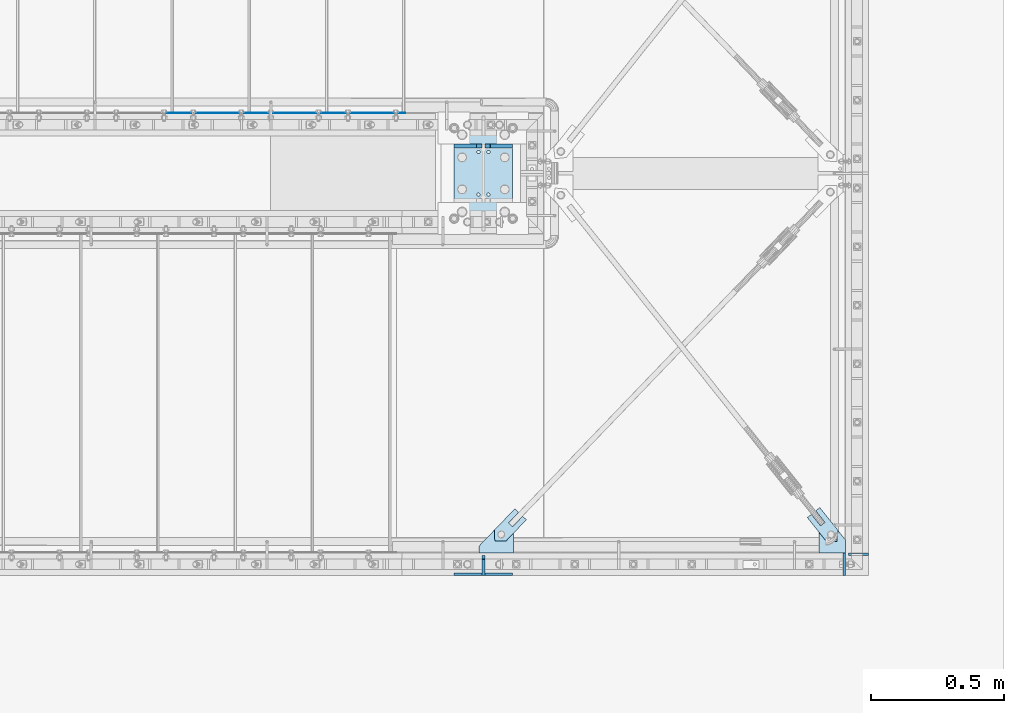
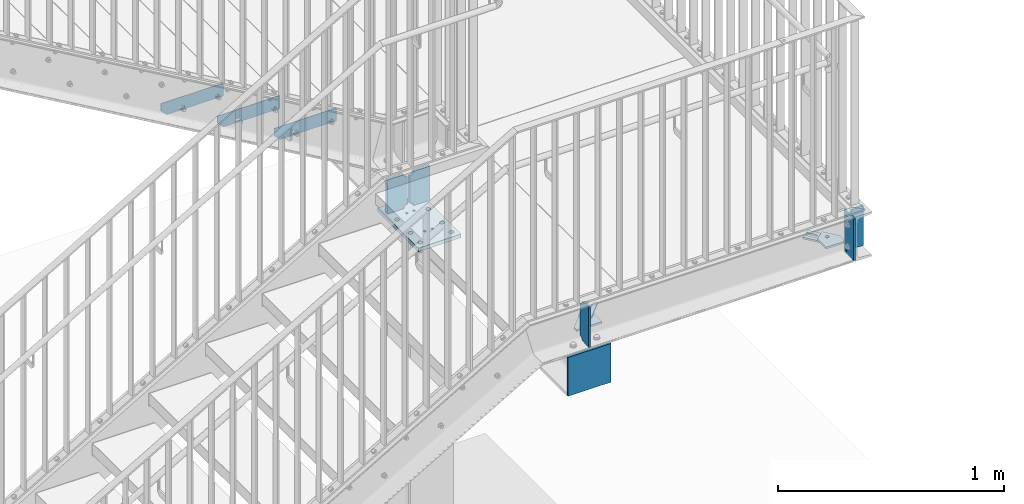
# One storey, part 23 of 145: 14 plates, 41 openings.
"""IFC2X3 building model written with IfcOpenShell, lengths in millimetres."""

from ifc_helpers import new_model, entity, si_unit, converted_unit, point, frame, frame_2d, origin, origin_with_axes, origin_2d_with_axis, place, context, project, spatial, polyline, circle_curve, line_curve, trimmed, segment, composite_curve, circle, outline, extrude, material, layer, layer_set, element, save


model = new_model("IFC2X3")

# Units and contexts
model_context = context("Model", 3, precision=1e-09, world=origin_with_axes())
ifc_project = project(units=[si_unit("LENGTHUNIT", "METRE", prefix="MILLI"), si_unit("AREAUNIT", "SQUARE_METRE"), si_unit("VOLUMEUNIT", "CUBIC_METRE"), converted_unit("PLANEANGLEUNIT", "DEGREE", entity("IfcPlaneAngleMeasure", 0.01745329), si_unit("PLANEANGLEUNIT", "RADIAN"), dimensions=[0, 0, 0, 0, 0, 0, 0])], contexts=[model_context])

# Site, building, storey
site_placement = place(None, origin_with_axes())
site = spatial("IfcSite", under=ifc_project, at=site_placement, Name="BZ1 Grund- und Mittelschule 85716 Unterschlei?heim", CompositionType="ELEMENT")
building_placement = place(site_placement, origin_with_axes())
building = spatial("IfcBuilding", under=site, at=building_placement, Name="Struktur 1", CompositionType="ELEMENT")
storey_placement = place(building_placement, origin_with_axes())
storey = spatial("IfcBuildingStorey", under=building, at=storey_placement, Name="Default Storey", CompositionType="ELEMENT", Elevation=0.0)

# Plate, openings
ifc_material = material(Name="S235JR")
ifc_layer_1 = layer(ifc_material, 20.0)
ifc_layer_set_1 = layer_set([ifc_layer_1], Name="S235JR")
plate_1_placement = place(None, frame((20210.84472732, -1695.002, 1133.636364), z_axis=(0.0, 0.0, 1.0), x_axis=(1.0, 0.0, 0.0)))
plate_1 = element("IfcPlate", 1, at=plate_1_placement, inside=storey, material=ifc_layer_set_1, Name="-", ObjectType="-", context=model_context, shape_type="SweptSolid", body=[
    extrude(outline(polyline([(-110.0, -180.0), (110.0, -180.0), (110.0, 180.0), (-110.0, 180.0), (-110.0, -180.0)])), origin_with_axes(), (0.0, 0.0, 1.0), 20.0),
])
opening_1_placement = place(plate_1_placement, frame((22.75, 76.0, 20.5), z_axis=(0.0, 0.0, -1.0), x_axis=(0.0, 1.0, 0.0)))
element("IfcOpeningElement", 2, at=opening_1_placement, cuts=plate_1, ObjectType="Opening", context=model_context, shape_type="SweptSolid", body=[
    extrude(circle(Radius=6.001, at=frame_2d((4.0, -4.0), x_axis=(1.0, 0.0))), origin(), (0.0, 0.0, 1.0), 21.0),
])
opening_2_placement = place(plate_1_placement, frame((22.75, -76.0, 20.5), z_axis=(0.0, 0.0, -1.0), x_axis=(0.0, 1.0, 0.0)))
element("IfcOpeningElement", 3, at=opening_2_placement, cuts=plate_1, ObjectType="Opening", context=model_context, shape_type="SweptSolid", body=[
    extrude(circle(Radius=6.001, at=frame_2d((-4.0, -4.0), x_axis=(1.0, 0.0))), origin(), (0.0, 0.0, 1.0), 21.0),
])
opening_3_placement = place(plate_1_placement, frame((-22.75, -76.0, 20.5), z_axis=(0.0, 0.0, -1.0), x_axis=(0.0, 1.0, 0.0)))
element("IfcOpeningElement", 4, at=opening_3_placement, cuts=plate_1, ObjectType="Opening", context=model_context, shape_type="SweptSolid", body=[
    extrude(circle(Radius=6.001, at=frame_2d((-4.0, 4.0), x_axis=(1.0, 0.0))), origin(), (0.0, 0.0, 1.0), 21.0),
])
opening_4_placement = place(plate_1_placement, frame((-22.75, 76.0, 20.5), z_axis=(0.0, 0.0, -1.0), x_axis=(0.0, 1.0, 0.0)))
element("IfcOpeningElement", 5, at=opening_4_placement, cuts=plate_1, ObjectType="Opening", context=model_context, shape_type="SweptSolid", body=[
    extrude(circle(Radius=6.001, at=frame_2d((4.0, 4.0), x_axis=(1.0, 0.0))), origin(), (0.0, 0.0, 1.0), 21.0),
])
opening_5_placement = place(plate_1_placement, frame((0.0, 145.0, -0.5), z_axis=(0.0, 0.0, 1.0), x_axis=(0.0, -1.0, 0.0)))
element("IfcOpeningElement", 6, at=opening_5_placement, cuts=plate_1, ObjectType="Opening", context=model_context, shape_type="SweptSolid", body=[
    extrude(circle(Radius=11.001, at=frame_2d((0.0, 80.0), x_axis=(1.0, 0.0))), origin(), (0.0, 0.0, 1.0), 21.0),
])
opening_6_placement = place(plate_1_placement, frame((0.0, 145.0, -0.5), z_axis=(0.0, 0.0, 1.0), x_axis=(0.0, -1.0, 0.0)))
element("IfcOpeningElement", 7, at=opening_6_placement, cuts=plate_1, ObjectType="Opening", context=model_context, shape_type="SweptSolid", body=[
    extrude(circle(Radius=11.001, at=frame_2d((0.0, -80.0), x_axis=(1.0, 0.0))), origin(), (0.0, 0.0, 1.0), 21.0),
])
opening_7_placement = place(plate_1_placement, frame((0.0, 0.0, -0.5), z_axis=(0.0, 0.0, 1.0), x_axis=(0.0, -1.0, 0.0)))
element("IfcOpeningElement", 8, at=opening_7_placement, cuts=plate_1, ObjectType="Opening", context=model_context, shape_type="SweptSolid", body=[
    extrude(circle(Radius=11.001, at=frame_2d((60.0, 80.0), x_axis=(1.0, 0.0))), origin(), (0.0, 0.0, 1.0), 21.0),
])
opening_8_placement = place(plate_1_placement, frame((0.0, 0.0, -0.5), z_axis=(0.0, 0.0, 1.0), x_axis=(0.0, -1.0, 0.0)))
element("IfcOpeningElement", 9, at=opening_8_placement, cuts=plate_1, ObjectType="Opening", context=model_context, shape_type="SweptSolid", body=[
    extrude(circle(Radius=11.001, at=frame_2d((-60.0, 80.0), x_axis=(1.0, 0.0))), origin(), (0.0, 0.0, 1.0), 21.0),
])
opening_9_placement = place(plate_1_placement, frame((0.0, 0.0, -0.5), z_axis=(0.0, 0.0, 1.0), x_axis=(0.0, -1.0, 0.0)))
element("IfcOpeningElement", 10, at=opening_9_placement, cuts=plate_1, ObjectType="Opening", context=model_context, shape_type="SweptSolid", body=[
    extrude(circle(Radius=11.001, at=frame_2d((60.0, -80.0), x_axis=(1.0, 0.0))), origin(), (0.0, 0.0, 1.0), 21.0),
])
opening_10_placement = place(plate_1_placement, frame((0.0, 0.0, -0.5), z_axis=(0.0, 0.0, 1.0), x_axis=(0.0, -1.0, 0.0)))
element("IfcOpeningElement", 11, at=opening_10_placement, cuts=plate_1, ObjectType="Opening", context=model_context, shape_type="SweptSolid", body=[
    extrude(circle(Radius=11.001, at=frame_2d((-60.0, -80.0), x_axis=(1.0, 0.0))), origin(), (0.0, 0.0, 1.0), 21.0),
])
opening_11_placement = place(plate_1_placement, frame((80.0, -156.001, -0.5), z_axis=(0.0, 0.0, -1.0), x_axis=(-1.0, 0.0, 0.0)))
element("IfcOpeningElement", 12, at=opening_11_placement, cuts=plate_1, ObjectType="Opening", context=model_context, shape_type="SweptSolid", body=[
    extrude(circle(Radius=11.001, at=frame_2d((0.0, 11.001), x_axis=(1.0, 0.0))), origin(), (0.0, 0.0, -1.0), 21.0),
])
opening_12_placement = place(plate_1_placement, frame((-80.0, -156.001, -0.5), z_axis=(0.0, 0.0, -1.0), x_axis=(-1.0, 0.0, 0.0)))
element("IfcOpeningElement", 13, at=opening_12_placement, cuts=plate_1, ObjectType="Opening", context=model_context, shape_type="SweptSolid", body=[
    extrude(circle(Radius=11.001, at=frame_2d((0.0, 11.001), x_axis=(1.0, 0.0))), origin(), (0.0, 0.0, -1.0), 21.0),
])

ifc_layer_2 = layer(ifc_material, 15.0)
ifc_layer_set_2 = layer_set([ifc_layer_2], Name="S235JR")
plate_2_placement = place(None, frame((20320.59472732, -1600.002, 1171.136364), z_axis=(0.0, 1.0, 0.0), x_axis=(-1.0, 0.0, 0.0)))
plate_2 = element("IfcPlate", 14, at=plate_2_placement, inside=storey, material=ifc_layer_set_2, Name="Stiffener#1", ObjectType="Stiffener#1", context=model_context, shape_type="SweptSolid", body=[
    extrude(outline(polyline([(0.0, 0.0), (104.0, 0.0), (104.0, 185.0), (0.0, 185.0), (0.0, 0.0)])), origin_with_axes(), (0.0, 0.0, 1.0), 15.0),
])
opening_13_placement = place(plate_2_placement, frame((0.0, 0.0, -0.01), z_axis=(0.0, 0.0, 1.0), x_axis=(1.0, 0.0, 0.0)))
element("IfcOpeningElement", 15, at=opening_13_placement, cuts=plate_2, ObjectType="Opening", context=model_context, shape_type="SweptSolid", body=[
    extrude(outline(composite_curve([segment(trimmed(line_curve((104.0, 185.0), (-1.0, 0.0), 20.0), [point((104.0, 185.0))], [point((84.0, 185.0))], True, "CARTESIAN"), True, "CONTINUOUS"), segment(trimmed(circle_curve(frame_2d((104.0, 185.0), x_axis=(1.0, 0.0)), 20.0), [point((84.0, 185.0))], [point((104.0, 165.0))], True, "CARTESIAN"), True, "CONTINUOUS"), segment(trimmed(line_curve((104.0, 165.0), (0.0, 1.0), 20.0), [point((104.0, 165.0))], [point((104.0, 185.0))], True, "CARTESIAN"), True, "CONTINUOUS")], self_intersect=False)), origin(), (0.0, 0.0, 1.0), 15.02),
])
opening_14_placement = place(plate_2_placement, frame((0.0, 0.0, -0.01), z_axis=(0.0, 0.0, 1.0), x_axis=(1.0, 0.0, 0.0)))
element("IfcOpeningElement", 16, at=opening_14_placement, cuts=plate_2, ObjectType="Opening", context=model_context, shape_type="SweptSolid", body=[
    extrude(outline(composite_curve([segment(trimmed(line_curve((104.0, 0.0), (0.0, 1.0), 20.0), [point((104.0, 0.0))], [point((104.0, 20.0))], True, "CARTESIAN"), True, "CONTINUOUS"), segment(trimmed(circle_curve(frame_2d((104.0, 0.0), x_axis=(1.0, 0.0)), 20.0), [point((104.0, 20.0))], [point((84.0, 0.0))], True, "CARTESIAN"), True, "CONTINUOUS"), segment(trimmed(line_curve((84.0, 0.0), (1.0, 0.0), 20.0), [point((84.0, 0.0))], [point((104.0, 0.0))], True, "CARTESIAN"), True, "CONTINUOUS")], self_intersect=False)), origin(), (0.0, 0.0, 1.0), 15.02),
])

plate_3_placement = place(None, frame((20205.09472732, -1600.002, 1171.136364), z_axis=(0.0, 1.0, 0.0), x_axis=(-1.0, 0.0, 0.0)))
plate_3 = element("IfcPlate", 17, at=plate_3_placement, inside=storey, material=ifc_layer_set_2, Name="Stiffener#0", ObjectType="Stiffener#0", context=model_context, shape_type="SweptSolid", body=[
    extrude(outline(polyline([(0.0, 0.0), (104.0, 0.0), (104.0, 185.0), (0.0, 185.0), (0.0, 0.0)])), origin_with_axes(), (0.0, 0.0, 1.0), 15.0),
])
opening_15_placement = place(plate_3_placement, frame((0.0, 0.0, -0.01), z_axis=(0.0, 0.0, 1.0), x_axis=(1.0, 0.0, 0.0)))
element("IfcOpeningElement", 18, at=opening_15_placement, cuts=plate_3, ObjectType="Opening", context=model_context, shape_type="SweptSolid", body=[
    extrude(outline(composite_curve([segment(trimmed(line_curve((0.0, 185.0), (0.0, -1.0), 20.0), [point((0.0, 185.0))], [point((0.0, 165.0))], True, "CARTESIAN"), True, "CONTINUOUS"), segment(trimmed(circle_curve(frame_2d((0.0, 185.0), x_axis=(1.0, 0.0)), 20.0), [point((0.0, 165.0))], [point((20.0, 185.0))], True, "CARTESIAN"), True, "CONTINUOUS"), segment(trimmed(line_curve((20.0, 185.0), (-1.0, 0.0), 20.0), [point((20.0, 185.0))], [point((0.0, 185.0))], True, "CARTESIAN"), True, "CONTINUOUS")], self_intersect=False)), origin(), (0.0, 0.0, 1.0), 15.02),
])
opening_16_placement = place(plate_3_placement, frame((0.0, 0.0, -0.01), z_axis=(0.0, 0.0, 1.0), x_axis=(1.0, 0.0, 0.0)))
element("IfcOpeningElement", 19, at=opening_16_placement, cuts=plate_3, ObjectType="Opening", context=model_context, shape_type="SweptSolid", body=[
    extrude(outline(composite_curve([segment(trimmed(line_curve((0.0, 0.0), (1.0, 0.0), 20.0), [point((0.0, 0.0))], [point((20.0, 0.0))], True, "CARTESIAN"), True, "CONTINUOUS"), segment(trimmed(circle_curve(origin_2d_with_axis(), 20.0), [point((20.0, 0.0))], [point((0.0, 20.0))], True, "CARTESIAN"), True, "CONTINUOUS"), segment(trimmed(line_curve((0.0, 20.0), (0.0, -1.0), 20.0), [point((0.0, 20.0))], [point((0.0, 0.0))], True, "CARTESIAN"), True, "CONTINUOUS")], self_intersect=False)), origin(), (0.0, 0.0, 1.0), 15.02),
])

ifc_layer_3 = layer(ifc_material, 10.0)
ifc_layer_set_3 = layer_set([ifc_layer_3], Name="S235JR")
plate_4_placement = place(None, frame((21570.84472732, -3162.502, 1493.6363644), z_axis=(1.0, 0.0, 0.0), x_axis=(0.0, 1.0, 0.0)))
plate_4 = element("IfcPlate", 20, at=plate_4_placement, inside=storey, material=ifc_layer_set_3, Name="-", ObjectType="-", context=model_context, shape_type="SweptSolid", body=[
    extrude(outline(polyline([(-42.5, -113.0), (42.5, -113.0), (42.5, 113.0), (-42.5, 113.0), (-42.5, -113.0)])), origin_with_axes(), (0.0, 0.0, -1.0), 10.0),
])
opening_17_placement = place(plate_4_placement, frame((20.0, 87.999, 0.5), z_axis=(0.0, 0.0, 1.0), x_axis=(1.0, 0.0, 0.0)))
element("IfcOpeningElement", 21, at=opening_17_placement, cuts=plate_4, ObjectType="Opening", context=model_context, shape_type="SweptSolid", body=[
    extrude(circle(Radius=6.001, at=frame_2d((0.0, 6.001), x_axis=(1.0, 0.0))), origin(), (0.0, 0.0, -1.0), 11.0),
])
opening_18_placement = place(plate_4_placement, frame((20.0, -100.001, 0.5), z_axis=(0.0, 0.0, 1.0), x_axis=(1.0, 0.0, 0.0)))
element("IfcOpeningElement", 22, at=opening_18_placement, cuts=plate_4, ObjectType="Opening", context=model_context, shape_type="SweptSolid", body=[
    extrude(circle(Radius=6.001, at=frame_2d((0.0, 6.001), x_axis=(1.0, 0.0))), origin(), (0.0, 0.0, -1.0), 11.0),
])
opening_19_placement = place(plate_4_placement, frame((-9.001, 60.0, 0.5), z_axis=(0.0, 0.0, 1.0), x_axis=(1.0, 0.0, 0.0)))
element("IfcOpeningElement", 23, at=opening_19_placement, cuts=plate_4, ObjectType="Opening", context=model_context, shape_type="SweptSolid", body=[
    extrude(circle(Radius=9.001, at=frame_2d((9.001, 0.0), x_axis=(1.0, 0.0))), origin(), (0.0, 0.0, -1.0), 11.0),
])
opening_20_placement = place(plate_4_placement, frame((-9.001, -60.0, 0.5), z_axis=(0.0, 0.0, 1.0), x_axis=(1.0, 0.0, 0.0)))
element("IfcOpeningElement", 24, at=opening_20_placement, cuts=plate_4, ObjectType="Opening", context=model_context, shape_type="SweptSolid", body=[
    extrude(circle(Radius=9.001, at=frame_2d((9.001, 0.0), x_axis=(1.0, 0.0))), origin(), (0.0, 0.0, -1.0), 11.0),
])

plate_5_placement = place(None, frame((21655.34472732, -3120.002, 1384.781098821), z_axis=(0.0, 1.0, 0.0), x_axis=(-0.996815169, 0.0, 0.079746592)))
plate_5 = element("IfcPlate", 25, at=plate_5_placement, inside=storey, material=ifc_layer_set_3, Name="Stiffener#1", ObjectType="Stiffener#1", context=model_context, shape_type="SweptSolid", body=[
    extrude(outline(polyline([(0.0, 0.0), (75.239625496, 0.0), (91.644322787, 205.05517107), (17.361672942, 217.017159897), (0.0, 0.0)])), origin_with_axes(), (0.0, 0.0, -1.0), 10.0),
])
opening_21_placement = place(plate_5_placement, frame((91.644322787, 205.05517107, 0.01), z_axis=(0.0, 0.0, 1.0), x_axis=(-0.987280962, 0.158985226, 0.0)))
element("IfcOpeningElement", 26, at=opening_21_placement, cuts=plate_5, ObjectType="Opening", context=model_context, shape_type="SweptSolid", body=[
    extrude(outline(composite_curve([segment(trimmed(line_curve((0.0, 0.0), (1.0, 0.0), 15.0), [point((0.0, 0.0))], [point((15.0, 0.0))], True, "CARTESIAN"), True, "CONTINUOUS"), segment(trimmed(circle_curve(origin_2d_with_axis(), 15.0), [point((15.0, 0.0))], [point((-1.196198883, 14.952227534))], True, "CARTESIAN"), True, "CONTINUOUS"), segment(trimmed(line_curve((-1.196198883, 14.952227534), (0.079746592, -0.996815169), 15.0), [point((-1.196198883, 14.952227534))], [point((0.0, 0.0))], True, "CARTESIAN"), True, "CONTINUOUS")], self_intersect=False)), origin(), (0.0, 0.0, -1.0), 10.02),
])
opening_22_placement = place(plate_5_placement, frame((75.239625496, 0.0, 0.01), z_axis=(0.0, 0.0, 1.0), x_axis=(0.079746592, 0.996815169, 0.0)))
element("IfcOpeningElement", 27, at=opening_22_placement, cuts=plate_5, ObjectType="Opening", context=model_context, shape_type="SweptSolid", body=[
    extrude(outline(composite_curve([segment(trimmed(line_curve((0.0, 0.0), (1.0, 0.0), 15.0), [point((0.0, 0.0))], [point((15.0, 0.0))], True, "CARTESIAN"), True, "CONTINUOUS"), segment(trimmed(circle_curve(origin_2d_with_axis(), 15.0), [point((15.0, 0.0))], [point((-1.196198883, 14.952227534))], True, "CARTESIAN"), True, "CONTINUOUS"), segment(trimmed(line_curve((-1.196198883, 14.952227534), (0.079746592, -0.996815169), 15.0), [point((-1.196198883, 14.952227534))], [point((0.0, 0.0))], True, "CARTESIAN"), True, "CONTINUOUS")], self_intersect=False)), origin(), (0.0, 0.0, -1.0), 10.02),
])

plate_6_placement = place(None, frame((20372.11487547, -2995.490883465, 1433.6363644), z_axis=(0.0, 0.0, -1.0), x_axis=(-0.692926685, -0.721008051, 0.0)))
plate_6 = element("IfcPlate", 28, at=plate_6_placement, inside=storey, material=ifc_layer_set_3, Name="-", ObjectType="-", context=model_context, shape_type="SweptSolid", body=[
    extrude(outline(polyline([(0.0, 0.0), (140.0, 0.0), (140.0, 60.0), (1e-09, 60.000000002), (1e-09, 40.5), (55.000000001, 40.499999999), (55.0, 19.499999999), (0.0, 19.5), (0.0, 0.0)])), origin_with_axes(), (0.0, 0.0, -1.0), 10.0),
])
opening_23_placement = place(plate_6_placement, frame((140.0, 0.0, 0.01), z_axis=(0.0, 0.0, 1.0), x_axis=(0.0, 1.0, 0.0)))
element("IfcOpeningElement", 29, at=opening_23_placement, cuts=plate_6, ObjectType="Opening", context=model_context, shape_type="SweptSolid", body=[
    extrude(outline(composite_curve([segment(trimmed(line_curve((0.0, 0.0), (1.0, 0.0), 30.0), [point((0.0, 0.0))], [point((30.0, 0.0))], True, "CARTESIAN"), True, "CONTINUOUS"), segment(trimmed(circle_curve(frame_2d((30.0, 30.0), x_axis=(-1.0, 0.0)), 30.0), [point((30.0, 0.0))], [point((0.0, 30.0))], False, "CARTESIAN"), True, "CONTINUOUS"), segment(trimmed(line_curve((0.0, 30.0), (0.0, -1.0), 30.0), [point((0.0, 30.0))], [point((0.0, 0.0))], True, "CARTESIAN"), True, "CONTINUOUS")], self_intersect=False)), origin(), (0.0, 0.0, -1.0), 10.02),
])
opening_24_placement = place(plate_6_placement, frame((140.0, 60.0, 0.01), z_axis=(0.0, 0.0, 1.0), x_axis=(-1.0, 0.0, 0.0)))
element("IfcOpeningElement", 30, at=opening_24_placement, cuts=plate_6, ObjectType="Opening", context=model_context, shape_type="SweptSolid", body=[
    extrude(outline(composite_curve([segment(trimmed(line_curve((0.0, 0.0), (1.0, 0.0), 30.0), [point((0.0, 0.0))], [point((30.0, 0.0))], True, "CARTESIAN"), True, "CONTINUOUS"), segment(trimmed(circle_curve(frame_2d((30.0, 30.0), x_axis=(-1.0, 0.0)), 30.0), [point((30.0, 0.0))], [point((0.0, 30.0))], False, "CARTESIAN"), True, "CONTINUOUS"), segment(trimmed(line_curve((0.0, 30.0), (0.0, -1.0), 30.0), [point((0.0, 30.0))], [point((0.0, 0.0))], True, "CARTESIAN"), True, "CONTINUOUS")], self_intersect=False)), origin(), (0.0, 0.0, -1.0), 10.02),
])
opening_25_placement = place(plate_6_placement, frame((114.001, 29.999999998, 0.5), z_axis=(0.0, 0.0, 1.0), x_axis=(1.0, 0.0, 0.0)))
element("IfcOpeningElement", 31, at=opening_25_placement, cuts=plate_6, ObjectType="Opening", context=model_context, shape_type="SweptSolid", body=[
    extrude(circle(Radius=9.001, at=frame_2d((-9.001, 0.0), x_axis=(1.0, 0.0))), origin(), (0.0, 0.0, -1.0), 11.0),
])

# Plate, opening
plate_7_placement = place(None, frame((20202.757632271, -3014.739856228, 1433.6363644), z_axis=(0.0, 0.0, 1.0), x_axis=(0.132269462, -0.991213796, 0.0)))
plate_7 = element("IfcPlate", 32, at=plate_7_placement, inside=storey, material=ifc_layer_set_3, Name="-", ObjectType="-", context=model_context, shape_type="SweptSolid", body=[
    extrude(outline(polyline([(77.988714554, -19.635673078), (103.127337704, -22.990218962), (120.322367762, 105.867574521), (46.932350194, 115.660878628), (0.0, 78.279673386), (77.988714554, -19.635673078)])), origin_with_axes(), (0.0, 0.0, -1.0), 10.0),
])
opening_26_placement = place(plate_7_placement, frame((50.879681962, 62.552436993, -10.5), z_axis=(0.0, 0.0, -1.0), x_axis=(-1.0, 0.0, 0.0)))
element("IfcOpeningElement", 33, at=opening_26_placement, cuts=plate_7, ObjectType="Opening", context=model_context, shape_type="SweptSolid", body=[
    extrude(circle(Radius=9.001, at=frame_2d((5.607803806, 7.040634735), x_axis=(1.0, 0.0))), origin(), (0.0, 0.0, -1.0), 11.0),
])

# Plate, openings
plate_8_placement = place(None, frame((21473.463522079, -2949.586712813, 1413.6363644), z_axis=(0.0, 0.0, -1.0), x_axis=(0.623020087, -0.782205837, 0.0)))
plate_8 = element("IfcPlate", 34, at=plate_8_placement, inside=storey, material=ifc_layer_set_3, Name="-", ObjectType="-", context=model_context, shape_type="SweptSolid", body=[
    extrude(outline(polyline([(0.0, 0.0), (140.0, 0.0), (140.0, 60.0), (1e-09, 60.000000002), (1e-09, 40.5), (55.000000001, 40.499999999), (55.0, 19.499999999), (0.0, 19.5), (0.0, 0.0)])), origin_with_axes(), (0.0, 0.0, -1.0), 10.0),
])
opening_27_placement = place(plate_8_placement, frame((140.0, 0.0, 0.01), z_axis=(0.0, 0.0, 1.0), x_axis=(0.0, 1.0, 0.0)))
element("IfcOpeningElement", 35, at=opening_27_placement, cuts=plate_8, ObjectType="Opening", context=model_context, shape_type="SweptSolid", body=[
    extrude(outline(composite_curve([segment(trimmed(line_curve((0.0, 0.0), (1.0, 0.0), 30.0), [point((0.0, 0.0))], [point((30.0, 0.0))], True, "CARTESIAN"), True, "CONTINUOUS"), segment(trimmed(circle_curve(frame_2d((30.0, 30.0), x_axis=(-1.0, 0.0)), 30.0), [point((30.0, 0.0))], [point((0.0, 30.0))], False, "CARTESIAN"), True, "CONTINUOUS"), segment(trimmed(line_curve((0.0, 30.0), (0.0, -1.0), 30.0), [point((0.0, 30.0))], [point((0.0, 0.0))], True, "CARTESIAN"), True, "CONTINUOUS")], self_intersect=False)), origin(), (0.0, 0.0, -1.0), 10.02),
])
opening_28_placement = place(plate_8_placement, frame((140.0, 60.0, 0.01), z_axis=(0.0, 0.0, 1.0), x_axis=(-1.0, 0.0, 0.0)))
element("IfcOpeningElement", 36, at=opening_28_placement, cuts=plate_8, ObjectType="Opening", context=model_context, shape_type="SweptSolid", body=[
    extrude(outline(composite_curve([segment(trimmed(line_curve((0.0, 0.0), (1.0, 0.0), 30.0), [point((0.0, 0.0))], [point((30.0, 0.0))], True, "CARTESIAN"), True, "CONTINUOUS"), segment(trimmed(circle_curve(frame_2d((30.0, 30.0), x_axis=(-1.0, 0.0)), 30.0), [point((30.0, 0.0))], [point((0.0, 30.0))], False, "CARTESIAN"), True, "CONTINUOUS"), segment(trimmed(line_curve((0.0, 30.0), (0.0, -1.0), 30.0), [point((0.0, 30.0))], [point((0.0, 0.0))], True, "CARTESIAN"), True, "CONTINUOUS")], self_intersect=False)), origin(), (0.0, 0.0, -1.0), 10.02),
])
opening_29_placement = place(plate_8_placement, frame((114.001, 29.999999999, 0.5), z_axis=(0.0, 0.0, 1.0), x_axis=(1.0, 0.0, 0.0)))
element("IfcOpeningElement", 37, at=opening_29_placement, cuts=plate_8, ObjectType="Opening", context=model_context, shape_type="SweptSolid", body=[
    extrude(circle(Radius=9.001, at=frame_2d((-9.001, 0.0), x_axis=(1.0, 0.0))), origin(), (0.0, 0.0, -1.0), 11.0),
])

# Plate, opening
plate_9_placement = place(None, frame((21470.142577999, -3120.002, 1433.6363644), z_axis=(0.0, 0.0, 1.0), x_axis=(1.0, 0.0, 0.0)))
plate_9 = element("IfcPlate", 38, at=plate_9_placement, inside=storey, material=ifc_layer_set_3, Name="-", ObjectType="-", context=model_context, shape_type="SweptSolid", body=[
    extrude(outline(polyline([(0.0, 0.0), (100.702149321, 0.0), (100.702149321, 48.152540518), (46.932350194, 115.660878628), (0.0, 78.279673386), (0.0, 0.0)])), origin_with_axes(), (0.0, 0.0, -1.0), 10.0),
])
opening_30_placement = place(plate_9_placement, frame((50.879681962, 62.552436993, -10.5), z_axis=(0.0, 0.0, -1.0), x_axis=(-1.0, 0.0, 0.0)))
element("IfcOpeningElement", 39, at=opening_30_placement, cuts=plate_9, ObjectType="Opening", context=model_context, shape_type="SweptSolid", body=[
    extrude(circle(Radius=9.001, at=frame_2d((5.607803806, 7.040634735), x_axis=(1.0, 0.0))), origin(), (0.0, 0.0, -1.0), 11.0),
])

# Plate, openings
plate_10_placement = place(None, frame((20215.84472732, -3204.502, 1384.781098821), z_axis=(1.0, 0.0, 0.0), x_axis=(0.0, 0.996815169, 0.079746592)))
plate_10 = element("IfcPlate", 40, at=plate_10_placement, inside=storey, material=ifc_layer_set_3, Name="Stiffener#1", ObjectType="Stiffener#1", context=model_context, shape_type="SweptSolid", body=[
    extrude(outline(polyline([(0.0, 0.0), (75.239625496, 0.0), (91.644322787, 205.05517107), (17.361672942, 217.017159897), (0.0, 0.0)])), origin_with_axes(), (0.0, 0.0, -1.0), 10.0),
])
opening_31_placement = place(plate_10_placement, frame((91.644322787, 205.05517107, 0.01), z_axis=(0.0, 0.0, 1.0), x_axis=(-0.987280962, 0.158985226, 0.0)))
element("IfcOpeningElement", 41, at=opening_31_placement, cuts=plate_10, ObjectType="Opening", context=model_context, shape_type="SweptSolid", body=[
    extrude(outline(composite_curve([segment(trimmed(line_curve((0.0, 0.0), (1.0, 0.0), 15.0), [point((0.0, 0.0))], [point((15.0, 0.0))], True, "CARTESIAN"), True, "CONTINUOUS"), segment(trimmed(circle_curve(origin_2d_with_axis(), 15.0), [point((15.0, 0.0))], [point((-1.196198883, 14.952227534))], True, "CARTESIAN"), True, "CONTINUOUS"), segment(trimmed(line_curve((-1.196198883, 14.952227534), (0.079746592, -0.996815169), 15.0), [point((-1.196198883, 14.952227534))], [point((0.0, 0.0))], True, "CARTESIAN"), True, "CONTINUOUS")], self_intersect=False)), origin(), (0.0, 0.0, -1.0), 10.02),
])
opening_32_placement = place(plate_10_placement, frame((75.239625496, 0.0, 0.01), z_axis=(0.0, 0.0, 1.0), x_axis=(0.079746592, 0.996815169, 0.0)))
element("IfcOpeningElement", 42, at=opening_32_placement, cuts=plate_10, ObjectType="Opening", context=model_context, shape_type="SweptSolid", body=[
    extrude(outline(composite_curve([segment(trimmed(line_curve((0.0, 0.0), (1.0, 0.0), 15.0), [point((0.0, 0.0))], [point((15.0, 0.0))], True, "CARTESIAN"), True, "CONTINUOUS"), segment(trimmed(circle_curve(origin_2d_with_axis(), 15.0), [point((15.0, 0.0))], [point((-1.196198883, 14.952227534))], True, "CARTESIAN"), True, "CONTINUOUS"), segment(trimmed(line_curve((-1.196198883, 14.952227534), (0.079746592, -0.996815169), 15.0), [point((-1.196198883, 14.952227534))], [point((0.0, 0.0))], True, "CARTESIAN"), True, "CONTINUOUS")], self_intersect=False)), origin(), (0.0, 0.0, -1.0), 10.02),
])

ifc_layer_4 = layer(ifc_material, 3.0)
ifc_layer_set_4 = layer_set([ifc_layer_4], Name="S235JR")
plate_11_placement = place(None, frame((19757.1419848, -1470.002, 1697.272727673), z_axis=(0.0, 1.0, 0.0), x_axis=(0.0, 0.0, -1.0)))
plate_11 = element("IfcPlate", 43, at=plate_11_placement, inside=storey, material=ifc_layer_set_4, Name="-", ObjectType="-", context=model_context, shape_type="SweptSolid", body=[
    extrude(outline(polyline([(-35.0, -160.0), (35.0, -160.0), (35.0, 160.0), (-35.0, 160.0), (-35.0, -160.0)])), origin_with_axes(), (0.0, 0.0, 1.0), 3.0),
])
opening_33_placement = place(plate_11_placement, frame((0.0, 7.5, -0.001), z_axis=(0.0, 0.0, 1.0), x_axis=(1.0, 0.0, 0.0)))
element("IfcOpeningElement", 44, at=opening_33_placement, cuts=plate_11, ObjectType="Opening", context=model_context, shape_type="SweptSolid", body=[
    extrude(outline(polyline([(5.0, 152.5), (35.0, 122.5), (35.0, 152.5), (5.0, 152.5)])), origin(), (0.0, 0.0, 1.0), 3.002),
])
opening_34_placement = place(plate_11_placement, frame((13.499, 45.5, -0.5), z_axis=(0.0, 0.0, -1.0), x_axis=(0.0, 1.0, 0.0)))
element("IfcOpeningElement", 45, at=opening_34_placement, cuts=plate_11, ObjectType="Opening", context=model_context, shape_type="SweptSolid", body=[
    extrude(outline(composite_curve([segment(trimmed(line_curve((0.0, 0.0), (1.0, 0.0), 19.0), [point((0.0, 0.0))], [point((19.0, 0.0))], True, "CARTESIAN"), True, "CONTINUOUS"), segment(trimmed(circle_curve(frame_2d((19.0, 6.501), x_axis=(1.0, 0.0)), 6.501), [point((19.0, 0.0))], [point((19.0, 13.002))], True, "CARTESIAN"), True, "CONTINUOUS"), segment(trimmed(line_curve((19.0, 13.002), (-1.0, 0.0), 19.0), [point((19.0, 13.002))], [point((0.0, 13.002))], True, "CARTESIAN"), True, "CONTINUOUS"), segment(trimmed(circle_curve(frame_2d((0.0, 6.501), x_axis=(1.0, 0.0)), 6.501), [point((0.0, 13.002))], [point((0.0, 0.0))], True, "CARTESIAN"), True, "CONTINUOUS")], self_intersect=False)), origin(), (0.0, 0.0, -1.0), 4.0),
])
opening_35_placement = place(plate_11_placement, frame((26.501, -125.0, -0.5), z_axis=(0.0, 0.0, -1.0), x_axis=(-1.0, 0.0, 0.0)))
element("IfcOpeningElement", 46, at=opening_35_placement, cuts=plate_11, ObjectType="Opening", context=model_context, shape_type="SweptSolid", body=[
    extrude(circle(Radius=6.501, at=frame_2d((6.501, 0.0), x_axis=(1.0, 0.0))), origin(), (0.0, 0.0, -1.0), 4.0),
])

plate_12_placement = place(None, frame((19467.1419848, -1470.002, 1865.909091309), z_axis=(0.0, 1.0, 0.0), x_axis=(0.0, 0.0, -1.0)))
plate_12 = element("IfcPlate", 47, at=plate_12_placement, inside=storey, material=ifc_layer_set_4, Name="-", ObjectType="-", context=model_context, shape_type="SweptSolid", body=[
    extrude(outline(polyline([(-35.0, -160.0), (35.0, -160.0), (35.0, 160.0), (-35.0, 160.0), (-35.0, -160.0)])), origin_with_axes(), (0.0, 0.0, 1.0), 3.0),
])
opening_36_placement = place(plate_12_placement, frame((0.0, 7.5, -0.001), z_axis=(0.0, 0.0, 1.0), x_axis=(1.0, 0.0, 0.0)))
element("IfcOpeningElement", 48, at=opening_36_placement, cuts=plate_12, ObjectType="Opening", context=model_context, shape_type="SweptSolid", body=[
    extrude(outline(polyline([(5.0, 152.5), (35.0, 122.5), (35.0, 152.5), (5.0, 152.5)])), origin(), (0.0, 0.0, 1.0), 3.002),
])
opening_37_placement = place(plate_12_placement, frame((26.501, -125.0, -0.5), z_axis=(0.0, 0.0, -1.0), x_axis=(-1.0, 0.0, 0.0)))
element("IfcOpeningElement", 49, at=opening_37_placement, cuts=plate_12, ObjectType="Opening", context=model_context, shape_type="SweptSolid", body=[
    extrude(circle(Radius=6.501, at=frame_2d((6.501, 0.0), x_axis=(1.0, 0.0))), origin(), (0.0, 0.0, -1.0), 4.0),
])
opening_38_placement = place(plate_12_placement, frame((13.499, 45.5, -0.5), z_axis=(0.0, 0.0, -1.0), x_axis=(0.0, 1.0, 0.0)))
element("IfcOpeningElement", 50, at=opening_38_placement, cuts=plate_12, ObjectType="Opening", context=model_context, shape_type="SweptSolid", body=[
    extrude(outline(composite_curve([segment(trimmed(line_curve((0.0, 0.0), (1.0, 0.0), 19.0), [point((0.0, 0.0))], [point((19.0, 0.0))], True, "CARTESIAN"), True, "CONTINUOUS"), segment(trimmed(circle_curve(frame_2d((19.0, 6.501), x_axis=(1.0, 0.0)), 6.501), [point((19.0, 0.0))], [point((19.0, 13.002))], True, "CARTESIAN"), True, "CONTINUOUS"), segment(trimmed(line_curve((19.0, 13.002), (-1.0, 0.0), 19.0), [point((19.0, 13.002))], [point((0.0, 13.002))], True, "CARTESIAN"), True, "CONTINUOUS"), segment(trimmed(circle_curve(frame_2d((0.0, 6.501), x_axis=(1.0, 0.0)), 6.501), [point((0.0, 13.002))], [point((0.0, 0.0))], True, "CARTESIAN"), True, "CONTINUOUS")], self_intersect=False)), origin(), (0.0, 0.0, -1.0), 4.0),
])

plate_13_placement = place(None, frame((19177.1419848, -1470.002, 2034.545454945), z_axis=(0.0, 1.0, 0.0), x_axis=(0.0, 0.0, -1.0)))
plate_13 = element("IfcPlate", 51, at=plate_13_placement, inside=storey, material=ifc_layer_set_4, Name="-", ObjectType="-", context=model_context, shape_type="SweptSolid", body=[
    extrude(outline(polyline([(-35.0, -160.0), (35.0, -160.0), (35.0, 160.0), (-35.0, 160.0), (-35.0, -160.0)])), origin_with_axes(), (0.0, 0.0, 1.0), 3.0),
])
opening_39_placement = place(plate_13_placement, frame((0.0, 7.5, -0.001), z_axis=(0.0, 0.0, 1.0), x_axis=(1.0, 0.0, 0.0)))
element("IfcOpeningElement", 52, at=opening_39_placement, cuts=plate_13, ObjectType="Opening", context=model_context, shape_type="SweptSolid", body=[
    extrude(outline(polyline([(5.0, 152.5), (35.0, 122.5), (35.0, 152.5), (5.0, 152.5)])), origin(), (0.0, 0.0, 1.0), 3.002),
])
opening_40_placement = place(plate_13_placement, frame((13.499, 45.5, -0.5), z_axis=(0.0, 0.0, -1.0), x_axis=(0.0, 1.0, 0.0)))
element("IfcOpeningElement", 53, at=opening_40_placement, cuts=plate_13, ObjectType="Opening", context=model_context, shape_type="SweptSolid", body=[
    extrude(outline(composite_curve([segment(trimmed(line_curve((0.0, 0.0), (1.0, 0.0), 19.0), [point((0.0, 0.0))], [point((19.0, 0.0))], True, "CARTESIAN"), True, "CONTINUOUS"), segment(trimmed(circle_curve(frame_2d((19.0, 6.501), x_axis=(1.0, 0.0)), 6.501), [point((19.0, 0.0))], [point((19.0, 13.002))], True, "CARTESIAN"), True, "CONTINUOUS"), segment(trimmed(line_curve((19.0, 13.002), (-1.0, 0.0), 19.0), [point((19.0, 13.002))], [point((0.0, 13.002))], True, "CARTESIAN"), True, "CONTINUOUS"), segment(trimmed(circle_curve(frame_2d((0.0, 6.501), x_axis=(1.0, 0.0)), 6.501), [point((0.0, 13.002))], [point((0.0, 0.0))], True, "CARTESIAN"), True, "CONTINUOUS")], self_intersect=False)), origin(), (0.0, 0.0, -1.0), 4.0),
])
opening_41_placement = place(plate_13_placement, frame((26.501, -125.0, -0.5), z_axis=(0.0, 0.0, -1.0), x_axis=(-1.0, 0.0, 0.0)))
element("IfcOpeningElement", 54, at=opening_41_placement, cuts=plate_13, ObjectType="Opening", context=model_context, shape_type="SweptSolid", body=[
    extrude(circle(Radius=6.501, at=frame_2d((6.501, 0.0), x_axis=(1.0, 0.0))), origin(), (0.0, 0.0, -1.0), 4.0),
])

# Plate
plate_14_placement = place(None, frame((20210.84472732, -3195.002, 1263.636364), z_axis=(0.0, -1.0, 0.0), x_axis=(1.0, 0.0, 0.0)))
element("IfcPlate", 55, at=plate_14_placement, inside=storey, material=ifc_layer_set_3, Name="-", ObjectType="-", context=model_context, shape_type="SweptSolid", body=[
    extrude(outline(polyline([(-110.0, -105.0), (110.0, -105.0), (110.0, 105.0), (-110.0, 105.0), (-110.0, -105.0)])), origin_with_axes(), (0.0, 0.0, 1.0), 10.0),
])

save(model, "model.ifc")
